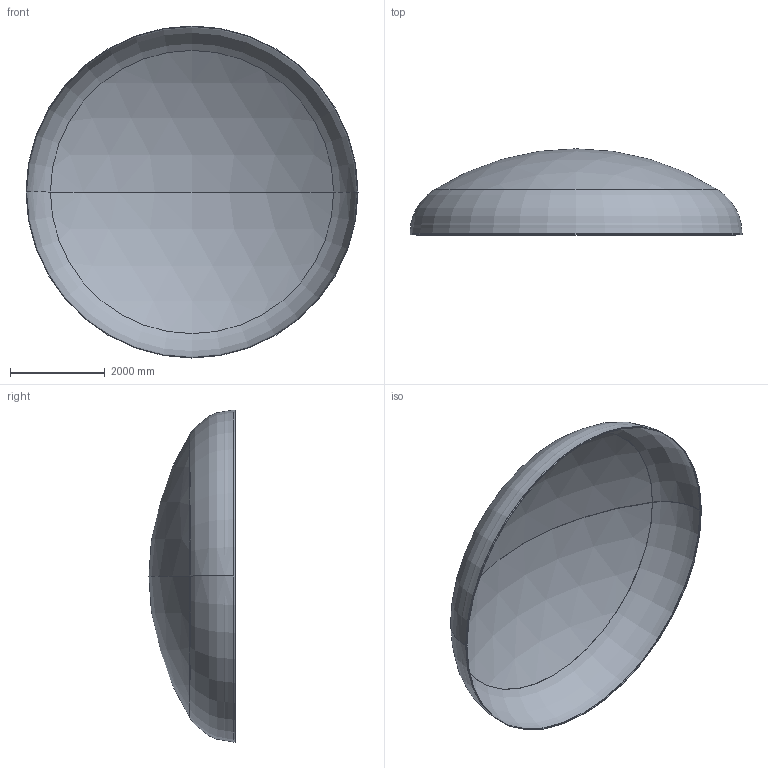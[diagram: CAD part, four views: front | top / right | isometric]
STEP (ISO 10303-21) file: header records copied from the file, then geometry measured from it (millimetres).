
FILE_DESCRIPTION (( 'STEP AP203' ), '1' );
FILE_NAME ('DIN 28013 Korbbogenform_-_Boden DIN 28013 - 7000 x 30 - I - s=10.step', '2016-07-04T10:45:00', ( '' ), ( '' ), 'SwSTEP 2.0', 'SolidWorks 2013', '' );
FILE_SCHEMA (( 'CONFIG_CONTROL_DESIGN' ));
Length unit declared in the file: millimetre
Products named in the file (1): DIN 28013 Korbbogenform_-_Boden DIN 28013 - 7000 x 30 - I - s=10
Bounding box: 7000 x 1816.09 x 7000 mm (x, y, z)
Volume: 538834330.5 mm3; surface area: 107986628 mm2
Topology: 1 solids, 1 shells, 13 faces, 24 edges, 14 vertices
Faces by surface type: torus 4, cylinder 4, sphere 4, plane 1
Entity records: 407 total; most frequent: DIRECTION 72, CARTESIAN_POINT 52, ORIENTED_EDGE 48, AXIS2_PLACEMENT_3D 34, EDGE_CURVE 24, CIRCLE 20, VERTEX_POINT 14, EDGE_LOOP 14
